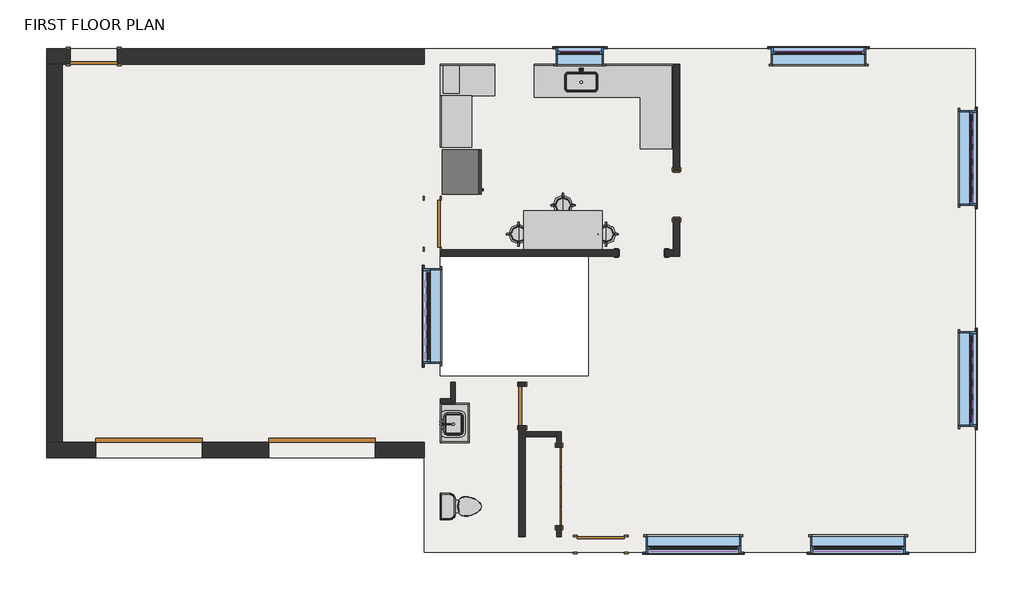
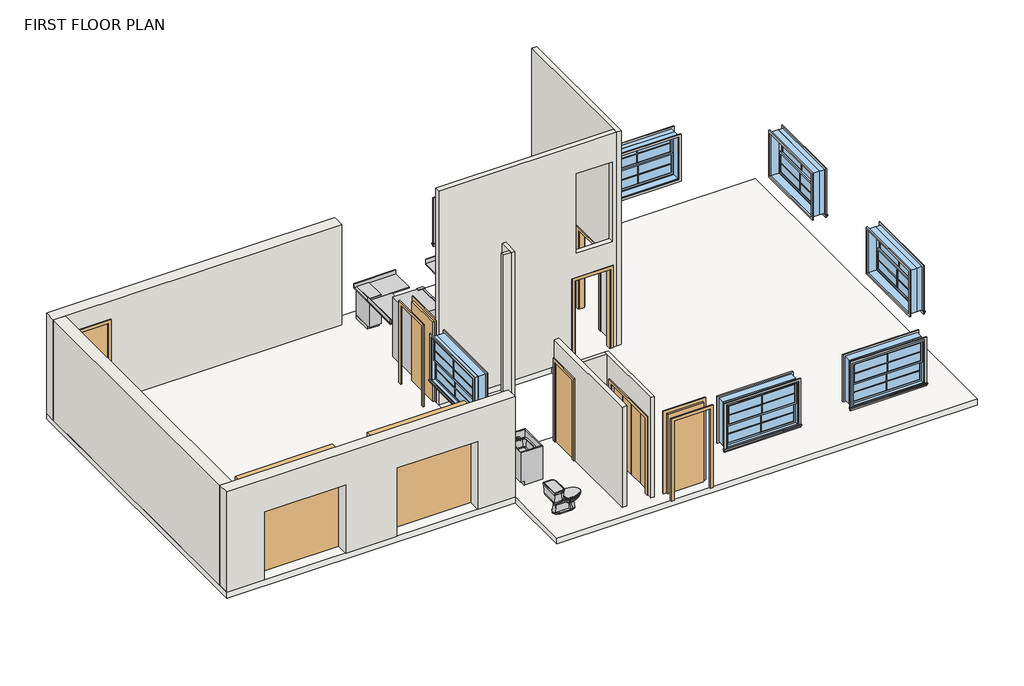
# One storey, incomplete: 29 proxies, 10 walls, 9 doors, 9 furniture elements, 7 windows, 3 flow terminals, 1 slab.
"""IFC4 building model written with IfcOpenShell, lengths in millimetres."""

from ifc_helpers import new_model, si_unit, frame, origin, origin_with_axes, place, context, project, spatial, polyline, outline, extrude, faceted_brep, transform, mapped, element, save
from components import specialty_equipment_468ee7b3, muntin_pattern_2x2_muntin_pattern_2x2_8091d02f, muntin_pattern_2x2_muntin_pattern_2x2_39947d6e, muntin_pattern_2x2_muntin_pattern_2x2_fe1a6047, trim_window_exterior_flat_with_sill_1e2c9110, trim_window_exterior_flat_with_sill_0b531897, trim_window_exterior_flat_with_sill_ab25b066, trim_window_interior_flat_picture_frame_bbc74a42, trim_window_interior_flat_picture_frame_a9dea4fc, trim_window_interior_flat_picture_frame_6e5e5000, door_5b7037ea, door_overhead_rolling_9cc751ae, door_overhead_rolling_85c29fc8, door_0b3bd6c5, m_single_flush_3_x_7_7cb89e25, m_single_flush_3_x_7_90ee66ff, door_f8acb57e, lsy_sink_1a_065a4558, flow_terminal_62a433f7, toilet_domestic_3d1_toilet_domestic_3d_a08e12bc, toilet_domestic_3d1_toilet_domestic_3d_5530cc89, furniture_796cbd9a, hb12_hb12_12_5a2af65d, lsy_bench_top_24dx30h_31415ff7, lsy_bench_top_24dx30h_35ee3d5e, lab_stool_lab_stool_8e3c4d68, lab_stool_lab_stool_061d08b2, sb02_sb2_30_8c8b874e, ta01_ta1_60_30d_dd2c573f, window_double_hung_3_window_62e769ca, window_double_hung_6_window_203ecefd, window_double_hung_6_window_37ab507d

model = new_model("IFC4")

# Units and contexts
model_context = context("Model", 3, world=origin())
ifc_project = project(units=[si_unit("LENGTHUNIT", "METRE", prefix="MILLI")], contexts=[model_context])

# Site, building, storey
site = spatial("IfcSite", under=ifc_project)
building = spatial("IfcBuilding", under=site)
storey = spatial("IfcBuildingStorey", under=building, Name="FIRST FLOOR PLAN", Elevation=0.0)

# Proxies
placement = place(None, origin())
specialty_equipment_shape = specialty_equipment_468ee7b3(model_context)
element("IfcBuildingElementProxy", 1, Name="R7000 - Refrigerator, 14 Cubic Feet1 : R7000 - Refrigerator, 14 Cubic Feet 2", ObjectType="R7000 - Refrigerator, 14 Cubic Feet1 : R7000 - Refrigerator, 14 Cubic Feet 2", at=placement, inside=storey, context=model_context, shape_type="MappedRepresentation", body=[
    mapped(specialty_equipment_shape, transform((11926.1254798, 11317.8490306, 0.0), x_axis=(0.0, 1.0, 0.0), y_axis=(-1.0, 0.0, 0.0), z_axis=(0.0, 0.0, 1.0))),
])
muntin_pattern_2x2_muntin_pattern_2x2_shape = muntin_pattern_2x2_muntin_pattern_2x2_8091d02f(model_context)
element("IfcBuildingElementProxy", 2, Name="Muntin Pattern_2x2 : Muntin Pattern_2x2", ObjectType="Muntin Pattern_2x2 : Muntin Pattern_2x2", at=placement, inside=storey, context=model_context, shape_type="MappedRepresentation", body=[
    mapped(muntin_pattern_2x2_muntin_pattern_2x2_shape, transform((14172.2379803, 13670.5240306, 1724.025), x_axis=(-1.0, 0.0, 0.0), y_axis=(0.0, -1.0, 0.0), z_axis=(0.0, 0.0, 1.0))),
])
element("IfcBuildingElementProxy", 3, Name="Muntin Pattern_2x2 : Muntin Pattern_2x2", ObjectType="Muntin Pattern_2x2 : Muntin Pattern_2x2", at=placement, inside=storey, context=model_context, shape_type="MappedRepresentation", body=[
    mapped(muntin_pattern_2x2_muntin_pattern_2x2_shape, transform((14172.2379803, 13626.0740306, 1193.8), x_axis=(-1.0, 0.0, 0.0), y_axis=(0.0, -1.0, 0.0), z_axis=(0.0, 0.0, 1.0))),
])
muntin_pattern_2x2_muntin_pattern_2x2_2_shape = muntin_pattern_2x2_muntin_pattern_2x2_39947d6e(model_context)
element("IfcBuildingElementProxy", 4, Name="Muntin Pattern_2x2 : Muntin Pattern_2x2", ObjectType="Muntin Pattern_2x2 : Muntin Pattern_2x2", at=placement, inside=storey, context=model_context, shape_type="MappedRepresentation", body=[
    mapped(muntin_pattern_2x2_muntin_pattern_2x2_2_shape, transform((19560.1745426, 3986.7740306, 1520.825), x_axis=(1.0, 0.0, 0.0), y_axis=(0.0, 1.0, 0.0), z_axis=(0.0, 0.0, 1.0))),
])
element("IfcBuildingElementProxy", 5, Name="Muntin Pattern_2x2 : Muntin Pattern_2x2", ObjectType="Muntin Pattern_2x2 : Muntin Pattern_2x2", at=placement, inside=storey, context=model_context, shape_type="MappedRepresentation", body=[
    mapped(muntin_pattern_2x2_muntin_pattern_2x2_2_shape, transform((19560.1745426, 4031.2240306, 990.6), x_axis=(1.0, 0.0, 0.0), y_axis=(0.0, 1.0, 0.0), z_axis=(0.0, 0.0, 1.0))),
])
element("IfcBuildingElementProxy", 6, Name="Muntin Pattern_2x2 : Muntin Pattern_2x2", ObjectType="Muntin Pattern_2x2 : Muntin Pattern_2x2", at=placement, inside=storey, context=model_context, shape_type="MappedRepresentation", body=[
    mapped(muntin_pattern_2x2_muntin_pattern_2x2_2_shape, transform((16370.4080449, 3986.7740306, 1520.825), x_axis=(1.0, 0.0, 0.0), y_axis=(0.0, 1.0, 0.0), z_axis=(0.0, 0.0, 1.0))),
])
element("IfcBuildingElementProxy", 7, Name="Muntin Pattern_2x2 : Muntin Pattern_2x2", ObjectType="Muntin Pattern_2x2 : Muntin Pattern_2x2", at=placement, inside=storey, context=model_context, shape_type="MappedRepresentation", body=[
    mapped(muntin_pattern_2x2_muntin_pattern_2x2_2_shape, transform((16370.4080449, 4031.2240306, 990.6), x_axis=(1.0, 0.0, 0.0), y_axis=(0.0, 1.0, 0.0), z_axis=(0.0, 0.0, 1.0))),
])
element("IfcBuildingElementProxy", 8, Name="Muntin Pattern_2x2 : Muntin Pattern_2x2", ObjectType="Muntin Pattern_2x2 : Muntin Pattern_2x2", at=placement, inside=storey, context=model_context, shape_type="MappedRepresentation", body=[
    mapped(muntin_pattern_2x2_muntin_pattern_2x2_2_shape, transform((21797.2004798, 7304.6490306, 1520.825), x_axis=(0.0, 1.0, 0.0), y_axis=(-1.0, 0.0, 0.0), z_axis=(0.0, 0.0, 1.0))),
])
element("IfcBuildingElementProxy", 9, Name="Muntin Pattern_2x2 : Muntin Pattern_2x2", ObjectType="Muntin Pattern_2x2 : Muntin Pattern_2x2", at=placement, inside=storey, context=model_context, shape_type="MappedRepresentation", body=[
    mapped(muntin_pattern_2x2_muntin_pattern_2x2_2_shape, transform((21752.7504798, 7304.6490306, 990.6), x_axis=(0.0, 1.0, 0.0), y_axis=(-1.0, 0.0, 0.0), z_axis=(0.0, 0.0, 1.0))),
])
element("IfcBuildingElementProxy", 10, Name="Muntin Pattern_2x2 : Muntin Pattern_2x2", ObjectType="Muntin Pattern_2x2 : Muntin Pattern_2x2", at=placement, inside=storey, context=model_context, shape_type="MappedRepresentation", body=[
    mapped(muntin_pattern_2x2_muntin_pattern_2x2_2_shape, transform((21797.2004798, 11586.9042158, 1520.825), x_axis=(0.0, 1.0, 0.0), y_axis=(-1.0, 0.0, 0.0), z_axis=(0.0, 0.0, 1.0))),
])
element("IfcBuildingElementProxy", 11, Name="Muntin Pattern_2x2 : Muntin Pattern_2x2", ObjectType="Muntin Pattern_2x2 : Muntin Pattern_2x2", at=placement, inside=storey, context=model_context, shape_type="MappedRepresentation", body=[
    mapped(muntin_pattern_2x2_muntin_pattern_2x2_2_shape, transform((21752.7504798, 11586.9042158, 990.6), x_axis=(0.0, 1.0, 0.0), y_axis=(-1.0, 0.0, 0.0), z_axis=(0.0, 0.0, 1.0))),
])
element("IfcBuildingElementProxy", 12, Name="Muntin Pattern_2x2 : Muntin Pattern_2x2", ObjectType="Muntin Pattern_2x2 : Muntin Pattern_2x2", at=placement, inside=storey, context=model_context, shape_type="MappedRepresentation", body=[
    mapped(muntin_pattern_2x2_muntin_pattern_2x2_2_shape, transform((11199.0504798, 8523.8490306, 1520.825), x_axis=(0.0, -1.0, 0.0), y_axis=(1.0, 0.0, 0.0), z_axis=(0.0, 0.0, 1.0))),
])
element("IfcBuildingElementProxy", 13, Name="Muntin Pattern_2x2 : Muntin Pattern_2x2", ObjectType="Muntin Pattern_2x2 : Muntin Pattern_2x2", at=placement, inside=storey, context=model_context, shape_type="MappedRepresentation", body=[
    mapped(muntin_pattern_2x2_muntin_pattern_2x2_2_shape, transform((11243.5004798, 8523.8490306, 990.6), x_axis=(0.0, -1.0, 0.0), y_axis=(1.0, 0.0, 0.0), z_axis=(0.0, 0.0, 1.0))),
])
muntin_pattern_2x2_muntin_pattern_2x2_3_shape = muntin_pattern_2x2_muntin_pattern_2x2_fe1a6047(model_context)
element("IfcBuildingElementProxy", 14, Name="Muntin Pattern_2x2 : Muntin Pattern_2x2", ObjectType="Muntin Pattern_2x2 : Muntin Pattern_2x2", at=placement, inside=storey, context=model_context, shape_type="MappedRepresentation", body=[
    mapped(muntin_pattern_2x2_muntin_pattern_2x2_3_shape, transform((18795.0737197, 13670.5240306, 1520.825), x_axis=(1.0, 0.0, 0.0), y_axis=(0.0, 1.0, 0.0), z_axis=(0.0, 0.0, 1.0))),
])
element("IfcBuildingElementProxy", 15, Name="Muntin Pattern_2x2 : Muntin Pattern_2x2", ObjectType="Muntin Pattern_2x2 : Muntin Pattern_2x2", at=placement, inside=storey, context=model_context, shape_type="MappedRepresentation", body=[
    mapped(muntin_pattern_2x2_muntin_pattern_2x2_3_shape, transform((18795.0737197, 13626.0740306, 990.6), x_axis=(1.0, 0.0, 0.0), y_axis=(0.0, 1.0, 0.0), z_axis=(0.0, 0.0, 1.0))),
])
trim_window_exterior_flat_with_sill_shape = trim_window_exterior_flat_with_sill_1e2c9110(model_context)
element("IfcBuildingElementProxy", 16, Name="Trim-Window-Exterior-Flat : with Sill", ObjectType="Trim-Window-Exterior-Flat : with Sill", at=placement, inside=storey, context=model_context, shape_type="MappedRepresentation", body=[
    mapped(trim_window_exterior_flat_with_sill_shape, transform((14172.2379803, 13705.4490306, 2286.0), x_axis=(1.0, 0.0, 0.0), y_axis=(0.0, 0.0, -1.0), z_axis=(0.0, 1.0, 0.0))),
])
trim_window_exterior_flat_with_sill_2_shape = trim_window_exterior_flat_with_sill_0b531897(model_context)
element("IfcBuildingElementProxy", 17, Name="Trim-Window-Exterior-Flat : with Sill", ObjectType="Trim-Window-Exterior-Flat : with Sill", at=placement, inside=storey, context=model_context, shape_type="MappedRepresentation", body=[
    mapped(trim_window_exterior_flat_with_sill_2_shape, transform((19560.1745426, 3951.8490306, 2082.8), x_axis=(-1.0, 0.0, 0.0), y_axis=(0.0, 0.0, -1.0), z_axis=(0.0, -1.0, 0.0))),
])
element("IfcBuildingElementProxy", 18, Name="Trim-Window-Exterior-Flat : with Sill", ObjectType="Trim-Window-Exterior-Flat : with Sill", at=placement, inside=storey, context=model_context, shape_type="MappedRepresentation", body=[
    mapped(trim_window_exterior_flat_with_sill_2_shape, transform((16370.4080449, 3951.8490306, 2082.8), x_axis=(-1.0, 0.0, 0.0), y_axis=(0.0, 0.0, -1.0), z_axis=(0.0, -1.0, 0.0))),
])
element("IfcBuildingElementProxy", 19, Name="Trim-Window-Exterior-Flat : with Sill", ObjectType="Trim-Window-Exterior-Flat : with Sill", at=placement, inside=storey, context=model_context, shape_type="MappedRepresentation", body=[
    mapped(trim_window_exterior_flat_with_sill_2_shape, transform((21832.1254798, 7304.6490306, 2082.8), x_axis=(0.0, -1.0, 0.0), y_axis=(0.0, 0.0, -1.0), z_axis=(1.0, 0.0, 0.0))),
])
element("IfcBuildingElementProxy", 20, Name="Trim-Window-Exterior-Flat : with Sill", ObjectType="Trim-Window-Exterior-Flat : with Sill", at=placement, inside=storey, context=model_context, shape_type="MappedRepresentation", body=[
    mapped(trim_window_exterior_flat_with_sill_2_shape, transform((21832.1254798, 11586.9042158, 2082.8), x_axis=(0.0, -1.0, 0.0), y_axis=(0.0, 0.0, -1.0), z_axis=(1.0, 0.0, 0.0))),
])
element("IfcBuildingElementProxy", 21, Name="Trim-Window-Exterior-Flat : with Sill", ObjectType="Trim-Window-Exterior-Flat : with Sill", at=placement, inside=storey, context=model_context, shape_type="MappedRepresentation", body=[
    mapped(trim_window_exterior_flat_with_sill_2_shape, transform((11164.1254798, 8523.8490306, 2082.8), x_axis=(0.0, 1.0, 0.0), y_axis=(0.0, 0.0, -1.0), z_axis=(-1.0, 0.0, 0.0))),
])
trim_window_exterior_flat_with_sill_3_shape = trim_window_exterior_flat_with_sill_ab25b066(model_context)
element("IfcBuildingElementProxy", 22, Name="Trim-Window-Exterior-Flat : with Sill", ObjectType="Trim-Window-Exterior-Flat : with Sill", at=placement, inside=storey, context=model_context, shape_type="MappedRepresentation", body=[
    mapped(trim_window_exterior_flat_with_sill_3_shape, transform((18795.0737197, 13705.4490306, 2082.8), x_axis=(-1.0, 0.0, 0.0), y_axis=(0.0, 0.0, 1.0), z_axis=(0.0, 1.0, 0.0))),
])
trim_window_interior_flat_picture_frame_shape = trim_window_interior_flat_picture_frame_bbc74a42(model_context)
element("IfcBuildingElementProxy", 23, Name="Trim-Window-Interior-Flat : Picture Frame", ObjectType="Trim-Window-Interior-Flat : Picture Frame", at=placement, inside=storey, context=model_context, shape_type="MappedRepresentation", body=[
    mapped(trim_window_interior_flat_picture_frame_shape, transform((14172.2379803, 13400.6490306, 2286.0), x_axis=(-1.0, 0.0, 0.0), y_axis=(0.0, 0.0, -1.0), z_axis=(0.0, -1.0, 0.0))),
])
trim_window_interior_flat_picture_frame_2_shape = trim_window_interior_flat_picture_frame_a9dea4fc(model_context)
element("IfcBuildingElementProxy", 24, Name="Trim-Window-Interior-Flat : Picture Frame", ObjectType="Trim-Window-Interior-Flat : Picture Frame", at=placement, inside=storey, context=model_context, shape_type="MappedRepresentation", body=[
    mapped(trim_window_interior_flat_picture_frame_2_shape, transform((19560.1745426, 4256.6490306, 2082.8), x_axis=(1.0, 0.0, 0.0), y_axis=(0.0, 0.0, -1.0), z_axis=(0.0, 1.0, 0.0))),
])
element("IfcBuildingElementProxy", 25, Name="Trim-Window-Interior-Flat : Picture Frame", ObjectType="Trim-Window-Interior-Flat : Picture Frame", at=placement, inside=storey, context=model_context, shape_type="MappedRepresentation", body=[
    mapped(trim_window_interior_flat_picture_frame_2_shape, transform((16370.4080449, 4256.6490306, 2082.8), x_axis=(1.0, 0.0, 0.0), y_axis=(0.0, 0.0, -1.0), z_axis=(0.0, 1.0, 0.0))),
])
element("IfcBuildingElementProxy", 26, Name="Trim-Window-Interior-Flat : Picture Frame", ObjectType="Trim-Window-Interior-Flat : Picture Frame", at=placement, inside=storey, context=model_context, shape_type="MappedRepresentation", body=[
    mapped(trim_window_interior_flat_picture_frame_2_shape, transform((21527.3254798, 7304.6490306, 2082.8), x_axis=(0.0, 1.0, 0.0), y_axis=(0.0, 0.0, -1.0), z_axis=(-1.0, 0.0, 0.0))),
])
element("IfcBuildingElementProxy", 27, Name="Trim-Window-Interior-Flat : Picture Frame", ObjectType="Trim-Window-Interior-Flat : Picture Frame", at=placement, inside=storey, context=model_context, shape_type="MappedRepresentation", body=[
    mapped(trim_window_interior_flat_picture_frame_2_shape, transform((21527.3254798, 11586.9042158, 2082.8), x_axis=(0.0, 1.0, 0.0), y_axis=(0.0, 0.0, -1.0), z_axis=(-1.0, 0.0, 0.0))),
])
element("IfcBuildingElementProxy", 28, Name="Trim-Window-Interior-Flat : Picture Frame", ObjectType="Trim-Window-Interior-Flat : Picture Frame", at=placement, inside=storey, context=model_context, shape_type="MappedRepresentation", body=[
    mapped(trim_window_interior_flat_picture_frame_2_shape, transform((11468.9254798, 8523.8490306, 2082.8), x_axis=(0.0, -1.0, 0.0), y_axis=(0.0, 0.0, -1.0), z_axis=(1.0, 0.0, 0.0))),
])
trim_window_interior_flat_picture_frame_3_shape = trim_window_interior_flat_picture_frame_6e5e5000(model_context)
element("IfcBuildingElementProxy", 29, Name="Trim-Window-Interior-Flat : Picture Frame", ObjectType="Trim-Window-Interior-Flat : Picture Frame", at=placement, inside=storey, context=model_context, shape_type="MappedRepresentation", body=[
    mapped(trim_window_interior_flat_picture_frame_3_shape, transform((18795.0737197, 13400.6490306, 2082.8), x_axis=(1.0, 0.0, 0.0), y_axis=(0.0, 0.0, 1.0), z_axis=(0.0, -1.0, 0.0))),
])

# Doors
door_shape = door_5b7037ea(model_context)
element("IfcDoor", 30, ObjectType="Door-Bifold 4-Panel Flush SlimFold_Dunbarton : 5'- 0\" x 6' - 8\"", at=placement, inside=storey, context=model_context, shape_type="MappedRepresentation", body=[
    mapped(door_shape, transform((13786.7629502, 5225.0240306, 0.0), x_axis=(0.0, -1.0, 0.0), y_axis=(1.0, 0.0, 0.0), z_axis=(0.0, 0.0, 1.0))),
])
door_overhead_rolling_shape = door_overhead_rolling_9cc751ae(model_context)
element("IfcDoor", 31, ObjectType="Door-Overhead-Rolling : 168'' x 168''", at=placement, inside=storey, context=model_context, shape_type="MappedRepresentation", body=[
    mapped(door_overhead_rolling_shape, transform((5830.1254798, 5933.0490306, 0.0), x_axis=(-1.0, 0.0, 0.0), y_axis=(0.0, -1.0, 0.0), z_axis=(0.0, 0.0, 1.0))),
])
door_overhead_rolling_2_shape = door_overhead_rolling_85c29fc8(model_context)
element("IfcDoor", 32, ObjectType="Door-Overhead-Rolling : 168'' x 168''", at=placement, inside=storey, context=model_context, shape_type="MappedRepresentation", body=[
    mapped(door_overhead_rolling_2_shape, transform((9182.9254798, 5933.0490306, 0.0), x_axis=(1.0, 0.0, 0.0), y_axis=(0.0, 1.0, 0.0), z_axis=(0.0, 0.0, 1.0))),
])
door_2_shape = door_0b3bd6c5(model_context)
element("IfcDoor", 33, ObjectType="M_Opening-Cased : 3'-0\"", at=placement, inside=storey, context=model_context, shape_type="MappedRepresentation", body=[
    mapped(door_2_shape, transform((15377.6016365, 9743.0490306, 0.0), x_axis=(1.0, 0.0, 0.0), y_axis=(0.0, 1.0, 0.0), z_axis=(0.0, 0.0, 1.0))),
])
element("IfcDoor", 34, ObjectType="M_Opening-Cased : 3'-0\"", at=placement, inside=storey, context=model_context, shape_type="MappedRepresentation", body=[
    mapped(door_2_shape, transform((16040.9254798, 10866.7478739, 0.0), x_axis=(0.0, -1.0, 0.0), y_axis=(1.0, 0.0, 0.0), z_axis=(0.0, 0.0, 1.0))),
])
m_single_flush_3_x_7_shape = m_single_flush_3_x_7_7cb89e25(model_context)
element("IfcDoor", 35, ObjectType="M_Single-Flush : 3' x 7'", at=placement, inside=storey, context=model_context, shape_type="MappedRepresentation", body=[
    mapped(m_single_flush_3_x_7_shape, transform((14577.2504798, 4104.2490306, 0.0), x_axis=(-1.0, 0.0, 0.0), y_axis=(0.0, -1.0, 0.0), z_axis=(0.0, 0.0, 1.0))),
])
m_single_flush_3_x_7_2_shape = m_single_flush_3_x_7_90ee66ff(model_context)
element("IfcDoor", 36, ObjectType="M_Single-Flush : 3' x 7'", at=placement, inside=storey, context=model_context, shape_type="MappedRepresentation", body=[
    mapped(m_single_flush_3_x_7_2_shape, transform((11316.5254798, 10312.9615306, 0.0), x_axis=(0.0, -1.0, 0.0), y_axis=(1.0, 0.0, 0.0), z_axis=(0.0, 0.0, 1.0))),
])
element("IfcDoor", 37, ObjectType="M_Single-Flush : 3' x 7'", at=placement, inside=storey, context=model_context, shape_type="MappedRepresentation", body=[
    mapped(m_single_flush_3_x_7_2_shape, transform((4763.3254798, 13553.0490306, 0.0), x_axis=(-1.0, 0.0, 0.0), y_axis=(0.0, -1.0, 0.0), z_axis=(0.0, 0.0, 1.0))),
])
door_3_shape = door_f8acb57e(model_context)
element("IfcDoor", 38, ObjectType="Single-Flush1 : 30\" x 84\"", at=placement, inside=storey, context=model_context, shape_type="MappedRepresentation", body=[
    mapped(door_3_shape, transform((13054.8379798, 6785.5365306, 0.0), x_axis=(0.0, 1.0, 0.0), y_axis=(-1.0, 0.0, 0.0), z_axis=(0.0, 0.0, 1.0))),
])

# Flow terminals
lsy_sink_1a_shape = lsy_sink_1a_065a4558(model_context)
element("IfcFlowTerminal", 39, ObjectType="LSY_Sink_1A : 25\"W x 15\"D", at=placement, inside=storey, context=model_context, shape_type="MappedRepresentation", body=[
    mapped(lsy_sink_1a_shape, transform((14185.1237397, 13153.8286295, -25.4), x_axis=(1.0, 0.0, 0.0), y_axis=(0.0, 1.0, 0.0), z_axis=(0.0, 0.0, 1.0))),
])
flow_terminal_shape = flow_terminal_62a433f7(model_context)
element("IfcFlowTerminal", 40, ObjectType="Sink Vanity-Square : 20\" x 18\"", at=placement, inside=storey, context=model_context, shape_type="MappedRepresentation", body=[
    mapped(flow_terminal_shape, transform((11674.4708809, 6418.6472901, 0.0), x_axis=(0.0, 1.0, 0.0), y_axis=(-1.0, 0.0, 0.0), z_axis=(0.0, 0.0, 1.0))),
])
toilet_domestic_3d1_toilet_domestic_3d_shape = toilet_domestic_3d1_toilet_domestic_3d_a08e12bc(model_context)
toilet_domestic_3d1_toilet_domestic_3d_2_shape = toilet_domestic_3d1_toilet_domestic_3d_5530cc89(model_context)
element("IfcFlowTerminal", 41, ObjectType="Toilet-Domestic-3D1 : Toilet-Domestic-3D", at=placement, inside=storey, context=model_context, shape_type="MappedRepresentation", body=[
    mapped(toilet_domestic_3d1_toilet_domestic_3d_shape, transform((11963.6215072, 4840.8490306, 0.0), x_axis=(0.0, -1.0, 0.0), y_axis=(1.0, 0.0, 0.0), z_axis=(0.0, 0.0, 1.0))),
    mapped(toilet_domestic_3d1_toilet_domestic_3d_2_shape, transform((11963.6215072, 4840.8490306, 0.0), x_axis=(0.0, -1.0, 0.0), y_axis=(1.0, 0.0, 0.0), z_axis=(0.0, 0.0, 1.0))),
])

# Furniture
furniture_shape = furniture_796cbd9a(model_context)
element("IfcFurniture", 42, ObjectType="Counter Top-L Shaped w Sink Hole : 24\" Depth", at=placement, inside=storey, context=model_context, shape_type="MappedRepresentation", body=[
    mapped(furniture_shape, transform((14778.5506847, 13400.6490306, 50.8), x_axis=(-1.0, 0.0, 0.0), y_axis=(0.0, -1.0, 0.0), z_axis=(0.0, 0.0, 1.0))),
])
hb12_hb12_12_shape = hb12_hb12_12_5a2af65d(model_context)
element("IfcFurniture", 43, ObjectType="HB12 : HB12-12", at=placement, inside=storey, context=model_context, shape_type="MappedRepresentation", body=[
    mapped(hb12_hb12_12_shape, transform((11664.5002749, 13400.6490306, 38.1), x_axis=(1.0, 0.0, 0.0), y_axis=(0.0, 1.0, 0.0), z_axis=(0.0, 0.0, 1.0))),
])
lsy_bench_top_24dx30h_shape = lsy_bench_top_24dx30h_31415ff7(model_context)
element("IfcFurniture", 44, ObjectType="LSY_Bench Top : 24Dx30H", at=placement, inside=storey, context=model_context, shape_type="MappedRepresentation", body=[
    mapped(lsy_bench_top_24dx30h_shape, transform((10853.9254798, 12997.9363253, 139.7), x_axis=(0.0, 1.0, 0.0), y_axis=(-1.0, 0.0, 0.0), z_axis=(0.0, 0.0, 1.0))),
])
lsy_bench_top_24dx30h_2_shape = lsy_bench_top_24dx30h_35ee3d5e(model_context)
element("IfcFurniture", 45, ObjectType="LSY_Bench Top : 24Dx30H", at=placement, inside=storey, context=model_context, shape_type="MappedRepresentation", body=[
    mapped(lsy_bench_top_24dx30h_2_shape, transform((12669.3877749, 14015.6490306, 139.7), x_axis=(1.0, 0.0, 0.0), y_axis=(0.0, 1.0, 0.0), z_axis=(0.0, 0.0, 1.0))),
])
lab_stool_lab_stool_shape = lab_stool_lab_stool_8e3c4d68(model_context)
element("IfcFurniture", 46, ObjectType="Lab Stool : Lab Stool", at=placement, inside=storey, context=model_context, shape_type="MappedRepresentation", body=[
    mapped(lab_stool_lab_stool_shape, transform((13845.4129798, 10670.8934189, 0.0), x_axis=(1.0, 0.0, 0.0), y_axis=(0.0, 1.0, 0.0), z_axis=(0.0, 0.0, 1.0))),
])
element("IfcFurniture", 47, ObjectType="Lab Stool : Lab Stool", at=placement, inside=storey, context=model_context, shape_type="MappedRepresentation", body=[
    mapped(lab_stool_lab_stool_shape, transform((12986.0423364, 10111.4529867, 0.0), x_axis=(1.0, 0.0, 0.0), y_axis=(0.0, 1.0, 0.0), z_axis=(0.0, 0.0, 1.0))),
])
lab_stool_lab_stool_2_shape = lab_stool_lab_stool_061d08b2(model_context)
element("IfcFurniture", 48, ObjectType="Lab Stool : Lab Stool", at=placement, inside=storey, context=model_context, shape_type="MappedRepresentation", body=[
    mapped(lab_stool_lab_stool_2_shape, transform((14680.4379798, 10111.4529867, 0.0), x_axis=(-1.0, 0.0, 0.0), y_axis=(0.0, -1.0, 0.0), z_axis=(0.0, 0.0, 1.0))),
])
sb02_sb2_30_shape = sb02_sb2_30_8c8b874e(model_context)
element("IfcFurniture", 49, ObjectType="SB02 : SB2-30", at=placement, inside=storey, context=model_context, shape_type="MappedRepresentation", body=[
    mapped(sb02_sb2_30_shape, transform((12027.7254798, 6474.0742356, 0.0), x_axis=(0.0, -1.0, 0.0), y_axis=(1.0, 0.0, 0.0), z_axis=(0.0, 0.0, 1.0))),
])
ta01_ta1_60_30d_shape = ta01_ta1_60_30d_dd2c573f(model_context)
element("IfcFurniture", 50, ObjectType="TA01 : TA1-60_30D", at=placement, inside=storey, context=model_context, shape_type="MappedRepresentation", body=[
    mapped(ta01_ta1_60_30d_shape, transform((13829.7856952, 10414.5615306, 0.0), x_axis=(1.0, 0.0, 0.0), y_axis=(0.0, 1.0, 0.0), z_axis=(0.0, 0.0, 1.0))),
])

# Slab
element("IfcSlab", 51, ObjectType="MultiFamilyGeneric", at=placement, inside=storey, context=model_context, shape_type="SweptSolid", body=[
    extrude(outline(polyline([(3848.9254798, 5780.6490306), (3848.9254798, 13705.4490306), (21832.1254798, 13705.4490306), (21832.1254798, 3951.8490306), (11164.1254798, 3951.8490306), (11164.1254798, 5780.6490306), (3848.9254798, 5780.6490306)]), holes=[polyline([(11468.9254798, 7366.5615306), (14339.1254798, 7366.5615306), (14339.1254798, 9681.1365306), (11468.9254798, 9681.1365306), (11468.9254798, 7366.5615306)])]), frame((0.0, 0.0, -152.4), z_axis=(0.0, 0.0, 1.0), x_axis=(1.0, 0.0, 0.0)), (0.0, 0.0, 1.0), 152.4),
])

# Walls
element("IfcWall", 52, ObjectType="Generic - 3 1/2\"", at=placement, inside=storey, context=model_context, shape_type="Brep", body=[
    faceted_brep([(11672.1254798, 7242.7365306, 0.0), (11672.1254798, 6925.2365306, 0.0), (11672.1254798, 6836.3365306, 0.0), (11672.1254798, 6836.3365306, 5740.4), (11672.1254798, 6925.2365306, 5740.4), (11672.1254798, 7242.7365306, 5740.4), (11761.0254798, 7242.7365306, 0.0), (11761.0254798, 7242.7365306, 5740.4), (11761.0254798, 6836.3365306, 5740.4), (11761.0254798, 6836.3365306, 0.0)], [[[0, 1, 2, 3, 4, 5]], [[6, 7, 8, 9]], [[2, 1, 0, 6, 9]], [[0, 5, 7, 6]], [[3, 2, 9, 8]], [[5, 4, 3, 8, 7]]]),
])
element("IfcWall", 53, ObjectType="Generic - 3 1/2\"", at=placement, inside=storey, context=model_context, shape_type="SweptSolid", body=[
    extrude(outline(polyline([(11468.9254798, 6925.2365306), (11672.1254798, 6925.2365306), (11672.1254798, 6836.3365306), (11468.9254798, 6836.3365306), (11468.9254798, 6925.2365306)])), origin_with_axes(), (0.0, 0.0, 1.0), 5740.4),
])
element("IfcWall", 54, ObjectType="Generic - 3 1/2\"", at=placement, inside=storey, context=model_context, shape_type="Brep", body=[
    faceted_brep([(13815.2504798, 4256.6490306, 2692.4), (13815.2504798, 4256.6490306, 0.0), (13815.2504798, 4463.0240306, 0.0), (13815.2504798, 4463.0240306, 2032.0), (13815.2504798, 5987.0240306, 2032.0), (13815.2504798, 5987.0240306, 0.0), (13815.2504798, 6282.2990306, 0.0), (13815.2504798, 6282.2990306, 2692.4), (13726.3504798, 4256.6490306, 0.0), (13726.3504798, 4256.6490306, 2692.4), (13726.3504798, 6193.3990306, 2692.4), (13726.3504798, 6282.2990306, 2692.4), (13726.3504798, 6282.2990306, 0.0), (13726.3504798, 6193.3990306, 0.0), (13726.3504798, 5987.0240306, 0.0), (13726.3504798, 5987.0240306, 2032.0), (13726.3504798, 4463.0240306, 2032.0), (13726.3504798, 4463.0240306, 0.0)], [[[0, 1, 2, 3, 4, 5, 6, 7]], [[8, 9, 10, 11, 12, 13, 14, 15, 16, 17]], [[1, 8, 17, 2]], [[12, 6, 5, 14, 13]], [[1, 0, 9, 8]], [[16, 3, 2, 17]], [[3, 16, 15, 4]], [[4, 15, 14, 5]], [[0, 7, 11, 10, 9]], [[7, 6, 12, 11]]]),
])
element("IfcWall", 55, ObjectType="Generic - 3 1/2\"", at=placement, inside=storey, context=model_context, shape_type="SweptSolid", body=[
    extrude(outline(polyline([(13116.7504798, 6282.2990306), (13726.3504798, 6282.2990306), (13726.3504798, 6193.3990306), (13116.7504798, 6193.3990306), (13116.7504798, 6282.2990306)])), origin_with_axes(), (0.0, 0.0, 1.0), 2692.4),
])
element("IfcWall", 56, ObjectType="Generic - Exterior wall 12\"", at=placement, inside=storey, context=model_context, shape_type="Brep", body=[
    faceted_brep([(3848.9254798, 6085.4490306, 0.0), (3848.9254798, 6085.4490306, 2692.4), (4153.7254798, 6085.4490306, 2692.4), (11164.1254798, 6085.4490306, 2692.4), (11164.1254798, 6085.4490306, 0.0), (10211.6254798, 6085.4490306, 0.0), (10211.6254798, 6085.4490306, 1828.8), (8154.2254798, 6085.4490306, 1828.8), (8154.2254798, 6085.4490306, 0.0), (6858.8254798, 6085.4490306, 0.0), (6858.8254798, 6085.4490306, 1828.8), (4801.4254798, 6085.4490306, 1828.8), (4801.4254798, 6085.4490306, 0.0), (4153.7254798, 6085.4490306, 0.0), (3848.9254798, 5780.6490306, 2692.4), (3848.9254798, 5780.6490306, 0.0), (4801.4254798, 5780.6490306, 0.0), (4801.4254798, 5780.6490306, 1828.8), (6858.8254798, 5780.6490306, 1828.8), (6858.8254798, 5780.6490306, 0.0), (8154.2254798, 5780.6490306, 0.0), (8154.2254798, 5780.6490306, 1828.8), (10211.6254798, 5780.6490306, 1828.8), (10211.6254798, 5780.6490306, 0.0), (11164.1254798, 5780.6490306, 0.0), (11164.1254798, 5780.6490306, 2692.4)], [[[0, 1, 2, 3, 4, 5, 6, 7, 8, 9, 10, 11, 12, 13]], [[14, 15, 16, 17, 18, 19, 20, 21, 22, 23, 24, 25]], [[15, 0, 13, 12, 16]], [[4, 24, 23, 5]], [[19, 9, 8, 20]], [[1, 0, 15, 14]], [[4, 3, 25, 24]], [[12, 11, 17, 16]], [[10, 9, 19, 18]], [[22, 6, 5, 23]], [[7, 21, 20, 8]], [[10, 18, 17, 11]], [[21, 7, 6, 22]], [[3, 2, 1, 14, 25]]]),
])
element("IfcWall", 57, ObjectType="Generic - Exterior wall 12\"", at=placement, inside=storey, context=model_context, shape_type="SweptSolid", body=[
    extrude(outline(polyline([(4153.7254798, 13400.6490306), (4153.7254798, 6085.4490306), (3848.9254798, 6085.4490306), (3848.9254798, 13400.6490306), (4153.7254798, 13400.6490306)])), origin_with_axes(), (0.0, 0.0, 1.0), 2692.4),
])
element("IfcWall", 58, ObjectType="Generic - Exterior wall 12\"", at=placement, inside=storey, context=model_context, shape_type="Brep", body=[
    faceted_brep([(3848.9254798, 13400.6490306, 0.0), (4153.7254798, 13400.6490306, 0.0), (4306.1254798, 13400.6490306, 0.0), (4306.1254798, 13400.6490306, 2133.6), (5220.5254798, 13400.6490306, 2133.6), (5220.5254798, 13400.6490306, 0.0), (11164.1254798, 13400.6490306, 0.0), (11164.1254798, 13400.6490306, 2692.4), (4153.7254798, 13400.6490306, 2692.4), (3848.9254798, 13400.6490306, 2692.4), (4306.1254798, 13705.4490306, 2133.6), (4306.1254798, 13705.4490306, 0.0), (3848.9254798, 13705.4490306, 0.0), (3848.9254798, 13705.4490306, 2692.4), (11164.1254798, 13705.4490306, 2692.4), (11164.1254798, 13705.4490306, 0.0), (5220.5254798, 13705.4490306, 0.0), (5220.5254798, 13705.4490306, 2133.6)], [[[0, 1, 2, 3, 4, 5, 6, 7, 8, 9]], [[10, 11, 12, 13, 14, 15, 16, 17]], [[16, 15, 6, 5]], [[12, 11, 2, 1, 0]], [[0, 9, 13, 12]], [[7, 6, 15, 14]], [[3, 2, 11, 10]], [[4, 3, 10, 17]], [[5, 4, 17, 16]], [[9, 8, 7, 14, 13]]]),
])
element("IfcWall", 59, ObjectType="Interior - 4 7/8\"", at=placement, inside=storey, context=model_context, shape_type="Brep", body=[
    faceted_brep([(15979.0129798, 10417.7365306, 2133.6), (15979.0129798, 10417.7365306, 0.0), (15979.0129798, 9804.9615306, 0.0), (15979.0129798, 9681.1365306, 0.0), (15979.0129798, 9681.1365306, 5740.4), (15979.0129798, 9804.9615306, 5740.4), (15979.0129798, 13400.6490306, 5740.4), (15979.0129798, 13400.6490306, 0.0), (15979.0129798, 11332.1365306, 0.0), (15979.0129798, 11332.1365306, 2133.6), (16102.8379798, 9681.1365306, 0.0), (16102.8379798, 10417.7365306, 0.0), (16102.8379798, 10417.7365306, 2133.6), (16102.8379798, 11332.1365306, 2133.6), (16102.8379798, 11332.1365306, 0.0), (16102.8379798, 13400.6490306, 0.0), (16102.8379798, 13400.6490306, 5740.4), (16102.8379798, 9877.9865306, 5740.4), (16102.8379798, 9681.1365306, 5740.4), (16102.8379798, 9681.1365306, 2844.8)], [[[0, 1, 2, 3, 4, 5, 6, 7, 8, 9]], [[10, 11, 12, 13, 14, 15, 16, 17, 18, 19]], [[8, 7, 15, 14]], [[3, 2, 1, 11, 10]], [[7, 6, 16, 15]], [[14, 13, 9, 8]], [[12, 11, 1, 0]], [[13, 12, 0, 9]], [[4, 3, 10, 19, 18]], [[6, 5, 4, 18, 17, 16]]]),
])
element("IfcWall", 60, ObjectType="Interior - 4 7/8\"", at=placement, inside=storey, context=model_context, shape_type="SweptSolid", body=[
    extrude(outline(polyline([(2133.6, 15826.6129798), (0.0, 15826.6129798), (0.0, 15979.0129798), (5740.4, 15979.0129798), (5740.4, 11468.9254798), (0.0, 11468.9254798), (0.0, 14912.2129798), (2133.6, 14912.2129798), (2133.6, 15826.6129798)]), holes=[polyline([(2844.8, 14963.0129798), (4978.4, 14963.0129798), (4978.4, 15877.4129798), (2844.8, 15877.4129798), (2844.8, 14963.0129798)])]), frame((0.0, 9681.1365306, 0.0), z_axis=(0.0, 1.0, 0.0), x_axis=(0.0, 0.0, 1.0)), (0.0, 0.0, 1.0), 123.825),
])
element("IfcWall", 61, ObjectType="Interior - 4 7/8\"", at=placement, inside=storey, context=model_context, shape_type="Brep", body=[
    faceted_brep([(12992.9254798, 7242.7365306, 0.0), (12992.9254798, 7166.5365306, 0.0), (12992.9254798, 7166.5365306, 2133.6), (12992.9254798, 6404.5365306, 2133.6), (12992.9254798, 6404.5365306, 0.0), (12992.9254798, 4256.6490306, 0.0), (12992.9254798, 4256.6490306, 2692.4), (12992.9254798, 7242.7365306, 2692.4), (13116.7504798, 7166.5365306, 2133.6), (13116.7504798, 7166.5365306, 0.0), (13116.7504798, 7242.7365306, 0.0), (13116.7504798, 7242.7365306, 2692.4), (13116.7504798, 6282.2990306, 2692.4), (13116.7504798, 6193.3990306, 2692.4), (13116.7504798, 4256.6490306, 2692.4), (13116.7504798, 4256.6490306, 0.0), (13116.7504798, 6193.3990306, 0.0), (13116.7504798, 6282.2990306, 0.0), (13116.7504798, 6404.5365306, 0.0), (13116.7504798, 6404.5365306, 2133.6)], [[[0, 1, 2, 3, 4, 5, 6, 7]], [[8, 9, 10, 11, 12, 13, 14, 15, 16, 17, 18, 19]], [[10, 9, 1, 0]], [[18, 17, 16, 15, 5, 4]], [[0, 7, 11, 10]], [[2, 1, 9, 8]], [[3, 2, 8, 19]], [[4, 3, 19, 18]], [[6, 5, 15, 14]], [[7, 6, 14, 13, 12, 11]]]),
])

# Windows
window_double_hung_3_window_shape = window_double_hung_3_window_62e769ca(model_context)
element("IfcWindow", 62, ObjectType="Window-Double-Hung : 3' WINDOW", at=placement, inside=storey, context=model_context, shape_type="MappedRepresentation", body=[
    mapped(window_double_hung_3_window_shape, transform((14172.2379803, 13553.0490306, 203.2), x_axis=(-1.0, 0.0, 0.0), y_axis=(0.0, -1.0, 0.0), z_axis=(0.0, 0.0, 1.0))),
])
window_double_hung_6_window_shape = window_double_hung_6_window_203ecefd(model_context)
element("IfcWindow", 63, ObjectType="Window-Double-Hung : 6' WINDOW", at=placement, inside=storey, context=model_context, shape_type="MappedRepresentation", body=[
    mapped(window_double_hung_6_window_shape, transform((19560.1745426, 4104.2490306, 0.0), x_axis=(1.0, 0.0, 0.0), y_axis=(0.0, 1.0, 0.0), z_axis=(0.0, 0.0, 1.0))),
])
element("IfcWindow", 64, ObjectType="Window-Double-Hung : 6' WINDOW", at=placement, inside=storey, context=model_context, shape_type="MappedRepresentation", body=[
    mapped(window_double_hung_6_window_shape, transform((16370.4080449, 4104.2490306, 0.0), x_axis=(1.0, 0.0, 0.0), y_axis=(0.0, 1.0, 0.0), z_axis=(0.0, 0.0, 1.0))),
])
element("IfcWindow", 65, ObjectType="Window-Double-Hung : 6' WINDOW", at=placement, inside=storey, context=model_context, shape_type="MappedRepresentation", body=[
    mapped(window_double_hung_6_window_shape, transform((21679.7254798, 7304.6490306, 0.0), x_axis=(0.0, 1.0, 0.0), y_axis=(-1.0, 0.0, 0.0), z_axis=(0.0, 0.0, 1.0))),
])
element("IfcWindow", 66, ObjectType="Window-Double-Hung : 6' WINDOW", at=placement, inside=storey, context=model_context, shape_type="MappedRepresentation", body=[
    mapped(window_double_hung_6_window_shape, transform((21679.7254798, 11586.9042158, 0.0), x_axis=(0.0, 1.0, 0.0), y_axis=(-1.0, 0.0, 0.0), z_axis=(0.0, 0.0, 1.0))),
])
element("IfcWindow", 67, ObjectType="Window-Double-Hung : 6' WINDOW", at=placement, inside=storey, context=model_context, shape_type="MappedRepresentation", body=[
    mapped(window_double_hung_6_window_shape, transform((11316.5254798, 8523.8490306, 0.0), x_axis=(0.0, -1.0, 0.0), y_axis=(1.0, 0.0, 0.0), z_axis=(0.0, 0.0, 1.0))),
])
window_double_hung_6_window_2_shape = window_double_hung_6_window_37ab507d(model_context)
element("IfcWindow", 68, ObjectType="Window-Double-Hung : 6' WINDOW", at=placement, inside=storey, context=model_context, shape_type="MappedRepresentation", body=[
    mapped(window_double_hung_6_window_2_shape, transform((18795.0737197, 13553.0490306, 0.0), x_axis=(1.0, 0.0, 0.0), y_axis=(0.0, 1.0, 0.0), z_axis=(0.0, 0.0, 1.0))),
])

save(model, "model.ifc")
